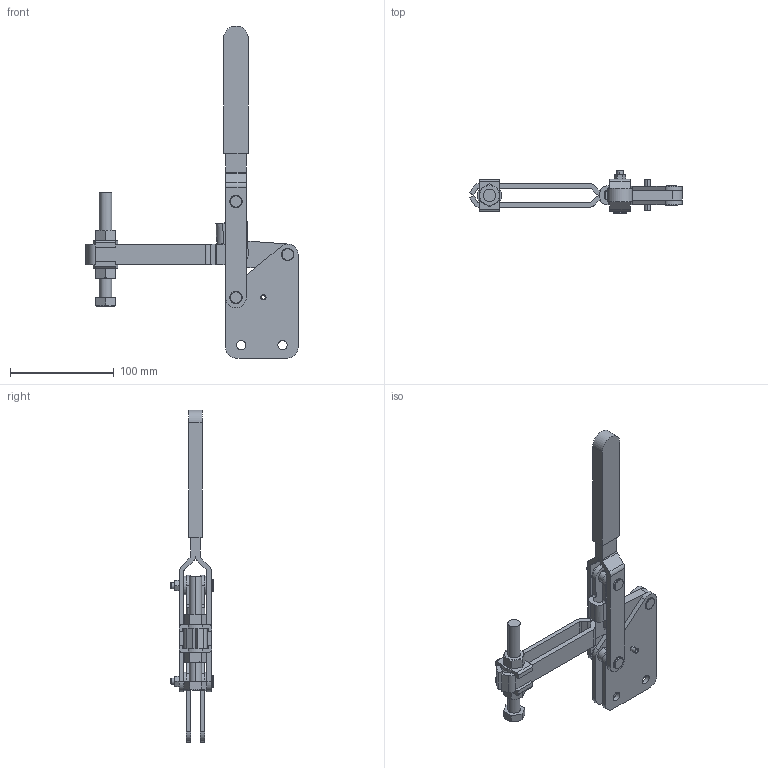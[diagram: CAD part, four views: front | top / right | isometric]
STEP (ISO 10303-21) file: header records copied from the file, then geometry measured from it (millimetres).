
FILE_DESCRIPTION(('CATIA V5 STEP Exchange'),'2;1');
FILE_NAME('D:\Model\toggle\toggle_standard\KJF_045_11S.stp','2005-06-24T05:15:40+00:00',('none'),('none'),'CATIA Version 5 Release 11 (IN-9)','CATIA V5 STEP AP203',' none');
FILE_SCHEMA(('CONFIG_CONTROL_DESIGN'));
Length unit declared in the file: millimetre
Products named in the file (1): Part1
Bounding box: 204.88 x 41.5 x 320.5 mm (x, y, z)
Volume: 203055.6 mm3; surface area: 100506.9 mm2
Topology: 24 solids, 24 shells, 378 faces, 924 edges, 606 vertices
Faces by surface type: cylinder 168, plane 164, cone 46
Entity records: 10858 total; most frequent: CARTESIAN_POINT 2387, ORIENTED_EDGE 1840, DIRECTION 1398, EDGE_CURVE 920, AXIS2_PLACEMENT_3D 669, VERTEX_POINT 606, EDGE_LOOP 458, VECTOR 448
